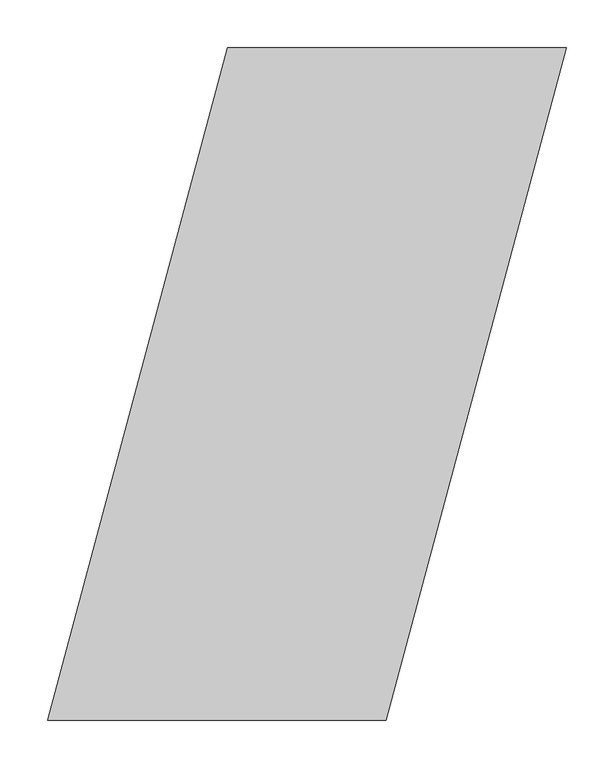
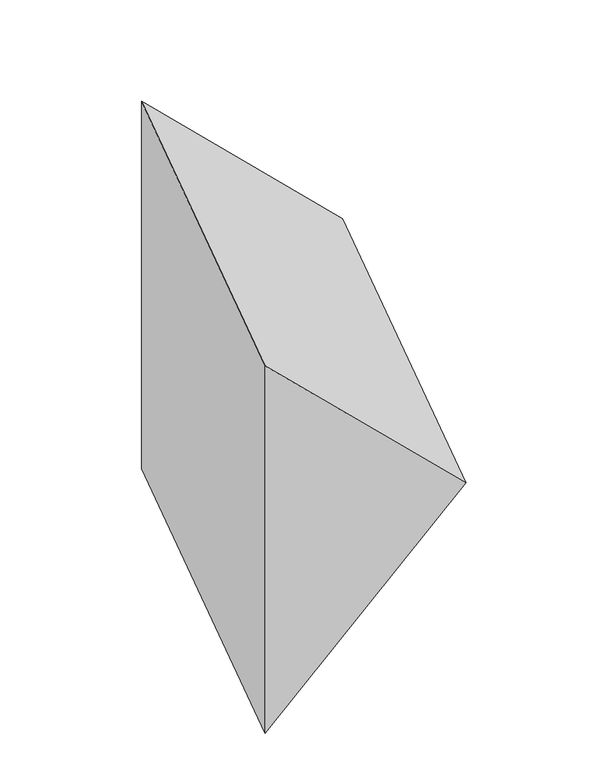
"""IFC4 building model written with IfcOpenShell, lengths in millimetres: proxy geometry, FOUNDATION^TABLE 5_60x180 LT END BASE-BACK PANEL."""

from ifc_helpers import new_model, si_unit, origin, place, context, project, spatial, faceted_brep, source, transform, mapped, element, save


def generic_models_38499bbf(model_context):
    return source(origin(), model_context, "Body", "Brep", [
        faceted_brep([(1301.1462023, 0.0, -762.0), (946.15, 0.0, -1104.9), (946.15, 0.0, -419.1), (757.2860117, -704.85, -1104.9), (1112.282214, -704.85, -762.0), (757.2860117, -704.85, -419.1)], [[[0, 1, 2]], [[3, 4, 5]], [[1, 0, 4, 3]], [[2, 1, 3, 5]], [[4, 0, 2, 5]]]),
    ])


if __name__ == "__main__":
    model = new_model("IFC4")
    model_context = context("Model", 3, world=origin())
    ifc_project = project(units=[si_unit("LENGTHUNIT", "METRE", prefix="MILLI")], contexts=[model_context])
    site = spatial("IfcSite", under=ifc_project)
    building = spatial("IfcBuilding", under=site)
    placement = place(None, origin())
    generic_models_shape = generic_models_38499bbf(model_context)
    element("IfcBuildingElementProxy", 1, Name="FOUNDATION^TABLE 5_60x180 LT END BASE-BACK PANEL", ObjectType="FOUNDATION^TABLE 5_60x180 LT END BASE-BACK PANEL", at=placement, inside=building, context=model_context, shape_type="MappedRepresentation", body=[
        mapped(generic_models_shape, transform((0.0, 0.0, 0.0), x_axis=(1.0, 0.0, 0.0), y_axis=(0.0, 1.0, 0.0), z_axis=(0.0, 0.0, 1.0))),
    ])
    save(model, "model.ifc")
